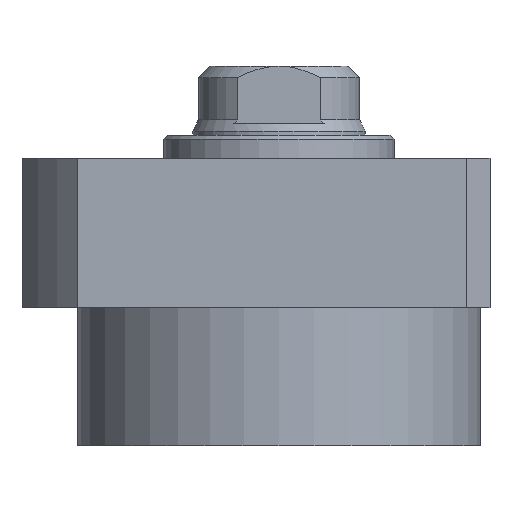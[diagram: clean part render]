
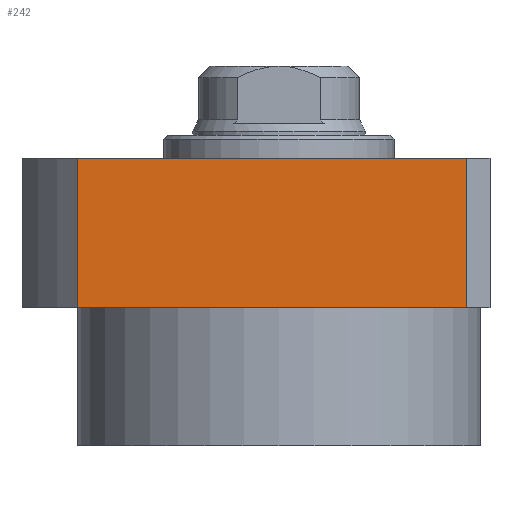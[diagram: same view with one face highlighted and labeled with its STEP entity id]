
A CAD part, front view. The second image highlights one B-rep face of the part: STEP entity #242.
In plain terms, the highlighted planar face has unit normal (0, -1, 0).
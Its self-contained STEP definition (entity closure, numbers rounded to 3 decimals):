
#53 = VERTEX_POINT ( 'NONE', #617 ) ;
#94 = PLANE ( 'NONE',  #186 ) ;
#186 = AXIS2_PLACEMENT_3D ( 'NONE', #1872, #1727, #1008 ) ;
#242 = ADVANCED_FACE ( 'NONE', ( #1747 ), #94, .F. ) ;
#245 = CARTESIAN_POINT ( 'NONE',  ( 55., -55., -19.5 ) ) ;
#253 = DIRECTION ( 'NONE',  ( 0., 0., 1. ) ) ;
#277 = DIRECTION ( 'NONE',  ( 1., 0., 0. ) ) ;
#391 = ORIENTED_EDGE ( 'NONE', *, *, #1838, .T. ) ;
#544 = VECTOR ( 'NONE', #849, 1000. ) ;
#617 = CARTESIAN_POINT ( 'NONE',  ( 49., -55., 19.5 ) ) ;
#671 = CARTESIAN_POINT ( 'NONE',  ( 55., -55., 19.5 ) ) ;
#744 = VECTOR ( 'NONE', #253, 1000. ) ;
#781 = VECTOR ( 'NONE', #277, 1000. ) ;
#827 = CARTESIAN_POINT ( 'NONE',  ( -52.45, -55., 19.5 ) ) ;
#849 = DIRECTION ( 'NONE',  ( 0., 0., -1. ) ) ;
#870 = VERTEX_POINT ( 'NONE', #1500 ) ;
#909 = LINE ( 'NONE', #827, #544 ) ;
#920 = ORIENTED_EDGE ( 'NONE', *, *, #1874, .F. ) ;
#972 = VECTOR ( 'NONE', #1443, 1000. ) ;
#1008 = DIRECTION ( 'NONE',  ( -1., 0., 0. ) ) ;
#1025 = ORIENTED_EDGE ( 'NONE', *, *, #1328, .T. ) ;
#1080 = VERTEX_POINT ( 'NONE', #1536 ) ;
#1136 = EDGE_LOOP ( 'NONE', ( #1864, #1025, #920, #391 ) ) ;
#1142 = LINE ( 'NONE', #245, #972 ) ;
#1166 = CARTESIAN_POINT ( 'NONE',  ( 49., -55., 19.5 ) ) ;
#1195 = LINE ( 'NONE', #671, #781 ) ;
#1213 = LINE ( 'NONE', #1166, #744 ) ;
#1328 = EDGE_CURVE ( 'NONE', #1080, #53, #1213, .T. ) ;
#1443 = DIRECTION ( 'NONE',  ( 1., 0., 0. ) ) ;
#1500 = CARTESIAN_POINT ( 'NONE',  ( -52.45, -55., 19.5 ) ) ;
#1536 = CARTESIAN_POINT ( 'NONE',  ( 49., -55., -19.5 ) ) ;
#1727 = DIRECTION ( 'NONE',  ( 0., 1., 0. ) ) ;
#1747 = FACE_OUTER_BOUND ( 'NONE', #1136, .T. ) ;
#1761 = CARTESIAN_POINT ( 'NONE',  ( -52.45, -55., -19.5 ) ) ;
#1809 = EDGE_CURVE ( 'NONE', #1893, #1080, #1142, .T. ) ;
#1838 = EDGE_CURVE ( 'NONE', #870, #1893, #909, .T. ) ;
#1864 = ORIENTED_EDGE ( 'NONE', *, *, #1809, .T. ) ;
#1872 = CARTESIAN_POINT ( 'NONE',  ( 55., -55., 19.5 ) ) ;
#1874 = EDGE_CURVE ( 'NONE', #870, #53, #1195, .T. ) ;
#1893 = VERTEX_POINT ( 'NONE', #1761 ) ;
